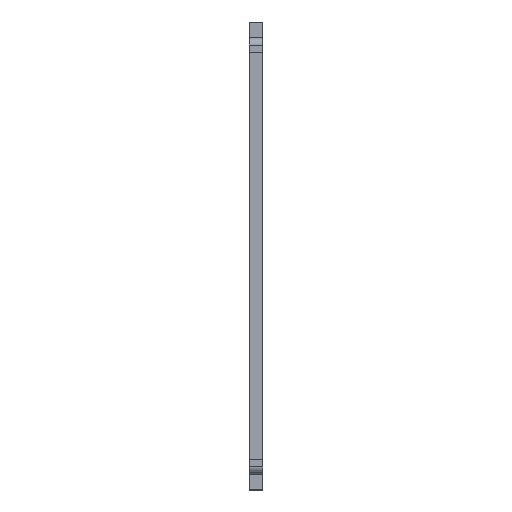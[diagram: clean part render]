
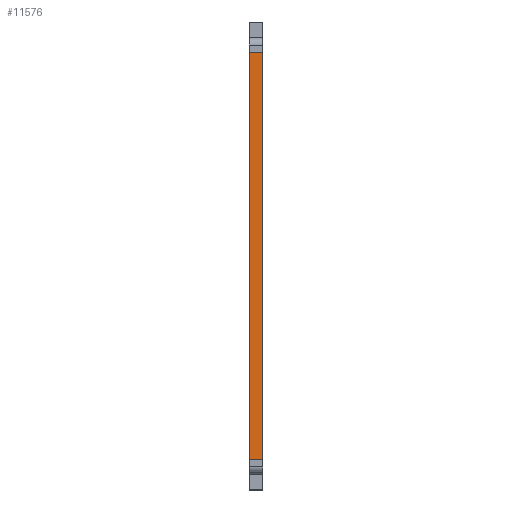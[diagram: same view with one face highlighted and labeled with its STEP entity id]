
A CAD part, left-side view. The second image highlights one B-rep face of the part: STEP entity #11576.
In plain terms, the highlighted planar face has unit normal (-1, 0, 0).
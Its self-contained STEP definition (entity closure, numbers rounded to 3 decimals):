
#413 = EDGE_LOOP ( 'NONE', ( #8348, #9821, #11448, #3666 ) ) ;
#479 = LINE ( 'NONE', #3467, #5135 ) ;
#1095 = EDGE_CURVE ( 'NONE', #10232, #10171, #8160, .T. ) ;
#1101 = VERTEX_POINT ( 'NONE', #7485 ) ;
#1556 = CARTESIAN_POINT ( 'NONE',  ( -47., -4., -30.75 ) ) ;
#1601 = CARTESIAN_POINT ( 'NONE',  ( -47., -2.1, -30.75 ) ) ;
#2017 = DIRECTION ( 'NONE',  ( 0., 0., -1. ) ) ;
#2597 = DIRECTION ( 'NONE',  ( 0., 0., -1. ) ) ;
#2803 = CARTESIAN_POINT ( 'NONE',  ( -47., -2.1, 26.75 ) ) ;
#3031 = VECTOR ( 'NONE', #11774, 1000. ) ;
#3081 = EDGE_CURVE ( 'NONE', #5927, #10171, #7345, .T. ) ;
#3467 = CARTESIAN_POINT ( 'NONE',  ( -47., -4., -30.75 ) ) ;
#3666 = ORIENTED_EDGE ( 'NONE', *, *, #7279, .F. ) ;
#4340 = EDGE_CURVE ( 'NONE', #1101, #5927, #479, .T. ) ;
#4902 = CARTESIAN_POINT ( 'NONE',  ( -47., -2., 26.75 ) ) ;
#5057 = CARTESIAN_POINT ( 'NONE',  ( -47., 22.5, -33. ) ) ;
#5135 = VECTOR ( 'NONE', #9767, 1000. ) ;
#5879 = AXIS2_PLACEMENT_3D ( 'NONE', #5057, #9883, #2017 ) ;
#5927 = VERTEX_POINT ( 'NONE', #1556 ) ;
#6619 = DIRECTION ( 'NONE',  ( 0., 1., 0. ) ) ;
#6909 = LINE ( 'NONE', #4902, #3031 ) ;
#7279 = EDGE_CURVE ( 'NONE', #10232, #1101, #6909, .T. ) ;
#7345 = LINE ( 'NONE', #8467, #7822 ) ;
#7485 = CARTESIAN_POINT ( 'NONE',  ( -47., -4., 26.75 ) ) ;
#7822 = VECTOR ( 'NONE', #6619, 1000. ) ;
#8087 = PLANE ( 'NONE',  #5879 ) ;
#8160 = LINE ( 'NONE', #11409, #8308 ) ;
#8308 = VECTOR ( 'NONE', #2597, 1000. ) ;
#8348 = ORIENTED_EDGE ( 'NONE', *, *, #1095, .T. ) ;
#8467 = CARTESIAN_POINT ( 'NONE',  ( -47., -2., -30.75 ) ) ;
#9767 = DIRECTION ( 'NONE',  ( 0., 0., -1. ) ) ;
#9821 = ORIENTED_EDGE ( 'NONE', *, *, #3081, .F. ) ;
#9883 = DIRECTION ( 'NONE',  ( 1., 0., 0. ) ) ;
#10171 = VERTEX_POINT ( 'NONE', #1601 ) ;
#10191 = FACE_OUTER_BOUND ( 'NONE', #413, .T. ) ;
#10232 = VERTEX_POINT ( 'NONE', #2803 ) ;
#11409 = CARTESIAN_POINT ( 'NONE',  ( -47., -2.1, 31. ) ) ;
#11448 = ORIENTED_EDGE ( 'NONE', *, *, #4340, .F. ) ;
#11576 = ADVANCED_FACE ( 'NONE', ( #10191 ), #8087, .F. ) ;
#11774 = DIRECTION ( 'NONE',  ( 0., -1., 0. ) ) ;
